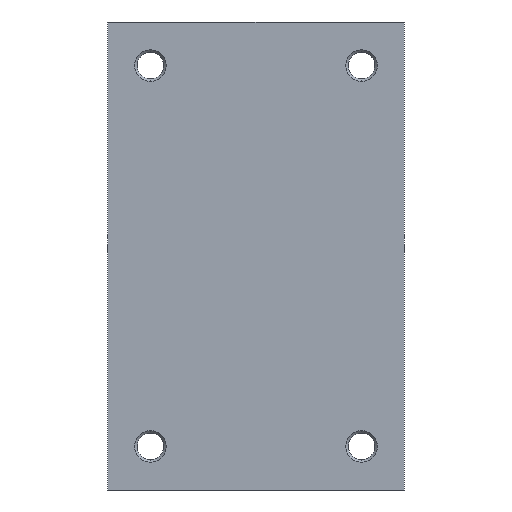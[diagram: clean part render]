
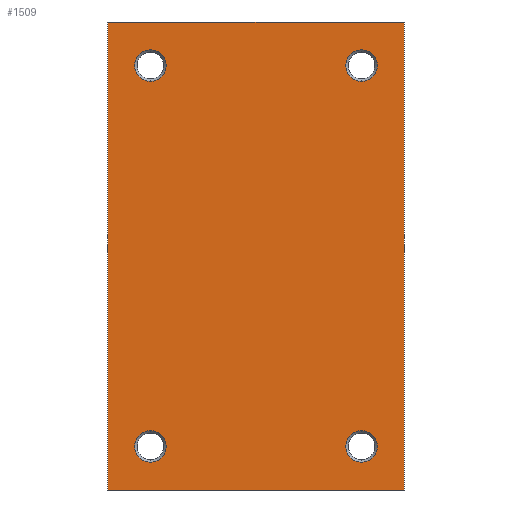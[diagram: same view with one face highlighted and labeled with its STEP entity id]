
A CAD part, front view. The second image highlights one B-rep face of the part: STEP entity #1509.
In plain terms, the highlighted planar face has unit normal (0, -1, 0).
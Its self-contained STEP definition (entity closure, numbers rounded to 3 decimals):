
#29 = EDGE_LOOP ( 'NONE', ( #1084, #2956 ) ) ;
#48 = EDGE_LOOP ( 'NONE', ( #134, #3707 ) ) ;
#61 = VERTEX_POINT ( 'NONE', #326 ) ;
#69 = DIRECTION ( 'NONE',  ( -1., 0., 0. ) ) ;
#134 = ORIENTED_EDGE ( 'NONE', *, *, #152, .T. ) ;
#136 = CARTESIAN_POINT ( 'NONE',  ( 13.08, 0., -23.6 ) ) ;
#152 = EDGE_CURVE ( 'NONE', #61, #760, #990, .T. ) ;
#169 = FACE_OUTER_BOUND ( 'NONE', #3620, .T. ) ;
#235 = VERTEX_POINT ( 'NONE', #3598 ) ;
#271 = CIRCLE ( 'NONE', #2811, 1.95 ) ;
#310 = DIRECTION ( 'NONE',  ( 0., 1., 0. ) ) ;
#326 = CARTESIAN_POINT ( 'NONE',  ( 13.08, 0., 21.65 ) ) ;
#337 = CIRCLE ( 'NONE', #2877, 1.95 ) ;
#376 = CARTESIAN_POINT ( 'NONE',  ( -13.08, 0., 23.6 ) ) ;
#401 = CARTESIAN_POINT ( 'NONE',  ( -18.4, 0., 29. ) ) ;
#432 = CARTESIAN_POINT ( 'NONE',  ( -13.08, 0., -23.6 ) ) ;
#440 = ORIENTED_EDGE ( 'NONE', *, *, #3959, .F. ) ;
#509 = FACE_BOUND ( 'NONE', #29, .T. ) ;
#547 = EDGE_CURVE ( 'NONE', #3762, #2096, #1328, .T. ) ;
#554 = EDGE_CURVE ( 'NONE', #1125, #2410, #2171, .T. ) ;
#605 = AXIS2_PLACEMENT_3D ( 'NONE', #2851, #4231, #1135 ) ;
#706 = EDGE_CURVE ( 'NONE', #2410, #1125, #4451, .T. ) ;
#709 = AXIS2_PLACEMENT_3D ( 'NONE', #2461, #3848, #736 ) ;
#716 = LINE ( 'NONE', #2101, #2228 ) ;
#728 = AXIS2_PLACEMENT_3D ( 'NONE', #1315, #2695, #4078 ) ;
#736 = DIRECTION ( 'NONE',  ( -1., 0., 0. ) ) ;
#745 = CIRCLE ( 'NONE', #3284, 1.95 ) ;
#760 = VERTEX_POINT ( 'NONE', #2878 ) ;
#778 = CARTESIAN_POINT ( 'NONE',  ( -18.4, 0., -29. ) ) ;
#785 = CARTESIAN_POINT ( 'NONE',  ( 13.08, 0., -23.6 ) ) ;
#789 = EDGE_CURVE ( 'NONE', #945, #235, #337, .T. ) ;
#832 = AXIS2_PLACEMENT_3D ( 'NONE', #2931, #3173, #69 ) ;
#849 = ORIENTED_EDGE ( 'NONE', *, *, #4298, .T. ) ;
#945 = VERTEX_POINT ( 'NONE', #4399 ) ;
#990 = CIRCLE ( 'NONE', #709, 1.95 ) ;
#1036 = CARTESIAN_POINT ( 'NONE',  ( 18.4, 0., 29. ) ) ;
#1084 = ORIENTED_EDGE ( 'NONE', *, *, #1229, .T. ) ;
#1125 = VERTEX_POINT ( 'NONE', #1596 ) ;
#1135 = DIRECTION ( 'NONE',  ( -1., 0., 0. ) ) ;
#1229 = EDGE_CURVE ( 'NONE', #3204, #1691, #2673, .T. ) ;
#1243 = CARTESIAN_POINT ( 'NONE',  ( 18.4, 0., 29. ) ) ;
#1315 = CARTESIAN_POINT ( 'NONE',  ( -13.08, 0., 23.6 ) ) ;
#1328 = LINE ( 'NONE', #2710, #1589 ) ;
#1427 = VECTOR ( 'NONE', #2158, 1000. ) ;
#1509 = ADVANCED_FACE ( 'NONE', ( #3613, #509, #1887, #3275, #169 ), #1549, .F. ) ;
#1522 = DIRECTION ( 'NONE',  ( 0., 1., 0. ) ) ;
#1549 = PLANE ( 'NONE',  #832 ) ;
#1567 = EDGE_CURVE ( 'NONE', #760, #61, #2570, .T. ) ;
#1589 = VECTOR ( 'NONE', #4093, 1000. ) ;
#1596 = CARTESIAN_POINT ( 'NONE',  ( -13.08, 0., -25.55 ) ) ;
#1691 = VERTEX_POINT ( 'NONE', #2983 ) ;
#1694 = DIRECTION ( 'NONE',  ( -1., 0., 0. ) ) ;
#1759 = DIRECTION ( 'NONE',  ( 0., 1., 0. ) ) ;
#1765 = EDGE_LOOP ( 'NONE', ( #3163, #849 ) ) ;
#1787 = EDGE_LOOP ( 'NONE', ( #2849, #3370 ) ) ;
#1816 = DIRECTION ( 'NONE',  ( 0., 1., 0. ) ) ;
#1828 = EDGE_CURVE ( 'NONE', #3762, #3686, #716, .T. ) ;
#1829 = EDGE_CURVE ( 'NONE', #1691, #3204, #271, .T. ) ;
#1887 = FACE_BOUND ( 'NONE', #1787, .T. ) ;
#1906 = EDGE_CURVE ( 'NONE', #2096, #2914, #3888, .T. ) ;
#2001 = ORIENTED_EDGE ( 'NONE', *, *, #547, .T. ) ;
#2096 = VERTEX_POINT ( 'NONE', #3376 ) ;
#2101 = CARTESIAN_POINT ( 'NONE',  ( -18.4, 0., 29. ) ) ;
#2111 = ORIENTED_EDGE ( 'NONE', *, *, #1828, .F. ) ;
#2158 = DIRECTION ( 'NONE',  ( 1., 0., 0. ) ) ;
#2164 = DIRECTION ( 'NONE',  ( 0., 1., 0. ) ) ;
#2171 = CIRCLE ( 'NONE', #2739, 1.95 ) ;
#2228 = VECTOR ( 'NONE', #3481, 1000. ) ;
#2410 = VERTEX_POINT ( 'NONE', #2884 ) ;
#2461 = CARTESIAN_POINT ( 'NONE',  ( 13.08, 0., 23.6 ) ) ;
#2516 = AXIS2_PLACEMENT_3D ( 'NONE', #432, #1816, #3196 ) ;
#2570 = CIRCLE ( 'NONE', #605, 1.95 ) ;
#2624 = DIRECTION ( 'NONE',  ( 0., 0., -1. ) ) ;
#2673 = CIRCLE ( 'NONE', #728, 1.95 ) ;
#2695 = DIRECTION ( 'NONE',  ( 0., 1., 0. ) ) ;
#2710 = CARTESIAN_POINT ( 'NONE',  ( -18.4, 0., 29. ) ) ;
#2739 = AXIS2_PLACEMENT_3D ( 'NONE', #3418, #310, #1694 ) ;
#2811 = AXIS2_PLACEMENT_3D ( 'NONE', #376, #1759, #3141 ) ;
#2849 = ORIENTED_EDGE ( 'NONE', *, *, #554, .T. ) ;
#2851 = CARTESIAN_POINT ( 'NONE',  ( 13.08, 0., 23.6 ) ) ;
#2859 = CARTESIAN_POINT ( 'NONE',  ( 18.4, 0., -29. ) ) ;
#2877 = AXIS2_PLACEMENT_3D ( 'NONE', #136, #1522, #2900 ) ;
#2878 = CARTESIAN_POINT ( 'NONE',  ( 13.08, 0., 25.55 ) ) ;
#2884 = CARTESIAN_POINT ( 'NONE',  ( -13.08, 0., -21.65 ) ) ;
#2900 = DIRECTION ( 'NONE',  ( -1., 0., 0. ) ) ;
#2914 = VERTEX_POINT ( 'NONE', #2859 ) ;
#2931 = CARTESIAN_POINT ( 'NONE',  ( -18.4, 0., 29. ) ) ;
#2956 = ORIENTED_EDGE ( 'NONE', *, *, #1829, .T. ) ;
#2983 = CARTESIAN_POINT ( 'NONE',  ( -13.08, 0., 25.55 ) ) ;
#3141 = DIRECTION ( 'NONE',  ( -1., 0., 0. ) ) ;
#3163 = ORIENTED_EDGE ( 'NONE', *, *, #789, .T. ) ;
#3173 = DIRECTION ( 'NONE',  ( 0., 1., 0. ) ) ;
#3196 = DIRECTION ( 'NONE',  ( -1., 0., 0. ) ) ;
#3204 = VERTEX_POINT ( 'NONE', #4113 ) ;
#3275 = FACE_BOUND ( 'NONE', #1765, .T. ) ;
#3284 = AXIS2_PLACEMENT_3D ( 'NONE', #785, #2164, #3551 ) ;
#3370 = ORIENTED_EDGE ( 'NONE', *, *, #706, .T. ) ;
#3376 = CARTESIAN_POINT ( 'NONE',  ( -18.4, 0., -29. ) ) ;
#3418 = CARTESIAN_POINT ( 'NONE',  ( -13.08, 0., -23.6 ) ) ;
#3446 = VECTOR ( 'NONE', #2624, 1000. ) ;
#3481 = DIRECTION ( 'NONE',  ( 1., 0., 0. ) ) ;
#3551 = DIRECTION ( 'NONE',  ( -1., 0., 0. ) ) ;
#3598 = CARTESIAN_POINT ( 'NONE',  ( 13.08, 0., -21.65 ) ) ;
#3613 = FACE_BOUND ( 'NONE', #48, .T. ) ;
#3620 = EDGE_LOOP ( 'NONE', ( #4036, #440, #2111, #2001 ) ) ;
#3686 = VERTEX_POINT ( 'NONE', #1036 ) ;
#3707 = ORIENTED_EDGE ( 'NONE', *, *, #1567, .T. ) ;
#3762 = VERTEX_POINT ( 'NONE', #401 ) ;
#3848 = DIRECTION ( 'NONE',  ( 0., 1., 0. ) ) ;
#3888 = LINE ( 'NONE', #778, #1427 ) ;
#3959 = EDGE_CURVE ( 'NONE', #3686, #2914, #4341, .T. ) ;
#4036 = ORIENTED_EDGE ( 'NONE', *, *, #1906, .T. ) ;
#4078 = DIRECTION ( 'NONE',  ( -1., 0., 0. ) ) ;
#4093 = DIRECTION ( 'NONE',  ( 0., 0., -1. ) ) ;
#4113 = CARTESIAN_POINT ( 'NONE',  ( -13.08, 0., 21.65 ) ) ;
#4231 = DIRECTION ( 'NONE',  ( 0., 1., 0. ) ) ;
#4298 = EDGE_CURVE ( 'NONE', #235, #945, #745, .T. ) ;
#4341 = LINE ( 'NONE', #1243, #3446 ) ;
#4399 = CARTESIAN_POINT ( 'NONE',  ( 13.08, 0., -25.55 ) ) ;
#4451 = CIRCLE ( 'NONE', #2516, 1.95 ) ;
